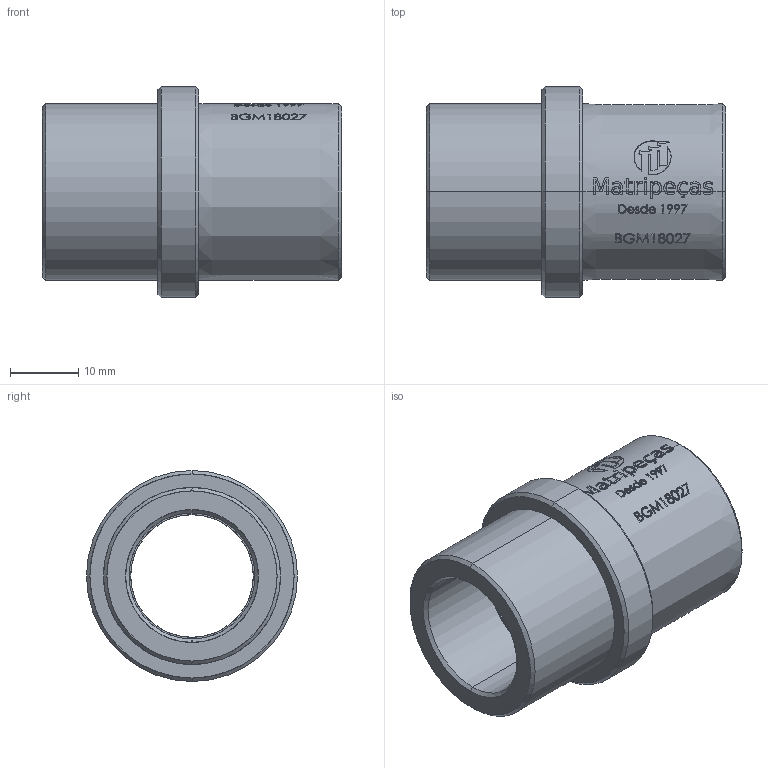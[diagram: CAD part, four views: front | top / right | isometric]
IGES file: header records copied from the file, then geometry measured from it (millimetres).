
Start section: SolidWorks IGES file using analytic representation for surfaces
Global section: file name: E:\1.TRIVECTOR\Clientes\MATRIPEÇAS\PEÇAS_CATALOGO_SITE\2.BGM - BUCHA GUIA E31 (CATÁLOGO)\BGM18027.IGS; native system: SolidWorks 2024; preprocessor: SolidWorks 2024; author: Gabriel Techio; date: 260827.142103; units: millimetre
Bounding box: 44 x 31 x 31 mm (x, y, z)
Surface area: 7084 mm2 (no closed solid volume)
Topology: 0 solids, 0 shells, 449 faces, 4507 edges, 4507 vertices
Faces by surface type: bspline 363, revolution 86
